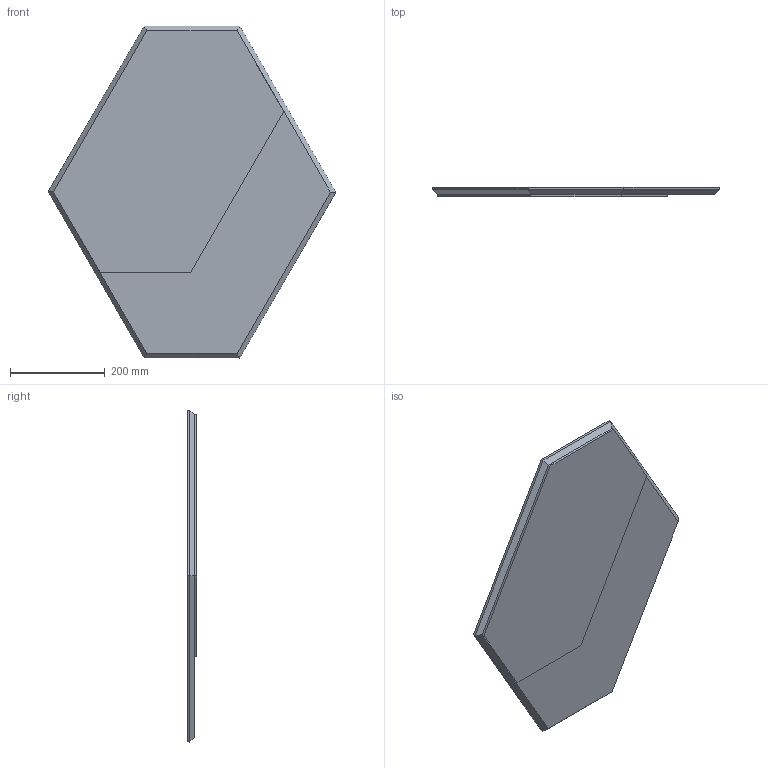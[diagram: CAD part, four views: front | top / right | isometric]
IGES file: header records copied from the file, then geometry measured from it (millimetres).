
Start section: SolidWorks IGES file using analytic representation for surfaces
Global section: file name: Y:\eforma\TECNICO\SOLIDWORKS\E-FORMA\4-SPECCHI\GEO\02 parts\GEO02_GeoB_70x60,5.IGS; native system: SolidWorks 2022; preprocessor: SolidWorks 2022; author: eforma.tech; date: 240806.092131; units: millimetre
Bounding box: 606.5 x 20 x 700.01 mm (x, y, z)
Volume: 4917220.8 mm3; surface area: 931401.7 mm2
Topology: 4 solids, 4 shells, 122 faces, 316 edges, 202 vertices
Faces by surface type: plane 70, revolution 52
